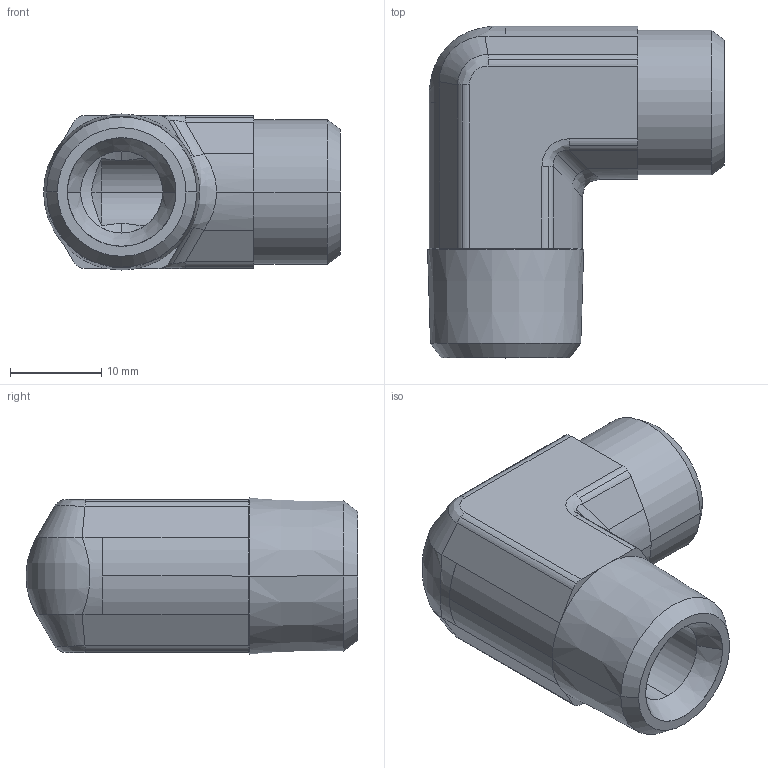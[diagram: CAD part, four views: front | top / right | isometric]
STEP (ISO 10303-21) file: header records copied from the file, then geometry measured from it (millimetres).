
FILE_DESCRIPTION((''),'2;1');
FILE_NAME('102029.stp','2007-10-30T16:36:06',(''),(''),'AutoCAD STEP 2000i','AutoCAD 2000i',', , ');
FILE_SCHEMA(('CONFIG_CONTROL_DESIGN'));
Length unit declared in the file: millimetre
Products named in the file (2): 102029.0; 3090#0
Assembly tree (1 placements, depth 2):
  102029.0
    3090#0
Bounding box: 32.56 x 36.4 x 17.12 mm (x, y, z)
Volume: 8220.7 mm3; surface area: 4415.5 mm2
Topology: 1 solids, 1 shells, 93 faces, 222 edges, 135 vertices
Faces by surface type: cylinder 38, plane 22, cone 19, bspline 14
Entity records: 3607 total; most frequent: CARTESIAN_POINT 1343, DIRECTION 473, ORIENTED_EDGE 444, EDGE_CURVE 222, AXIS2_PLACEMENT_3D 194, VERTEX_POINT 135, CIRCLE 103, EDGE_LOOP 99
